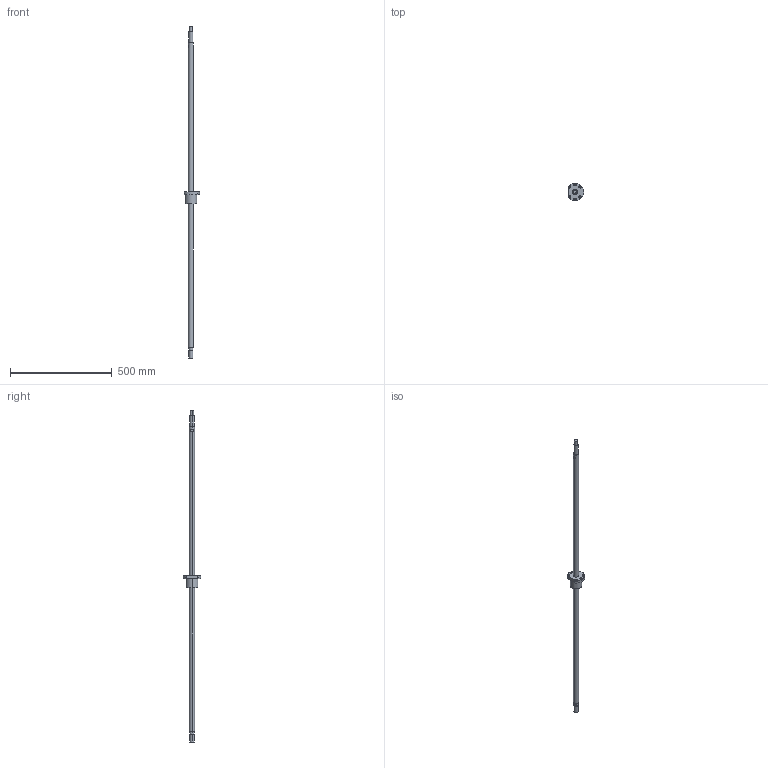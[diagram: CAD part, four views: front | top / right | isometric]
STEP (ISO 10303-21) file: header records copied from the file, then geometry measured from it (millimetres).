
FILE_DESCRIPTION((''),'2;1');
FILE_NAME('R25-10K4-FSC-1470-1633','2008-04-03T',('wcwu'),(''),'PRO/ENGINEER BY PARAMETRIC TECHNOLOGY CORPORATION, 2005070','PRO/ENGINEER BY PARAMETRIC TECHNOLOGY CORPORATION, 2005070','');
FILE_SCHEMA(('CONFIG_CONTROL_DESIGN'));
Length unit declared in the file: millimetre
Products named in the file (1): R25-10K4-FSC-1470-1633
Bounding box: 74.5 x 84.99 x 1633 mm (x, y, z)
Volume: 937172.9 mm3; surface area: 145792.2 mm2
Topology: 1 solids, 1 shells, 64 faces, 144 edges, 96 vertices
Faces by surface type: cylinder 41, plane 23
Entity records: 1900 total; most frequent: DIRECTION 362, CARTESIAN_POINT 304, ORIENTED_EDGE 288, AXIS2_PLACEMENT_3D 154, EDGE_CURVE 144, VERTEX_POINT 96, EDGE_LOOP 90, CIRCLE 90
